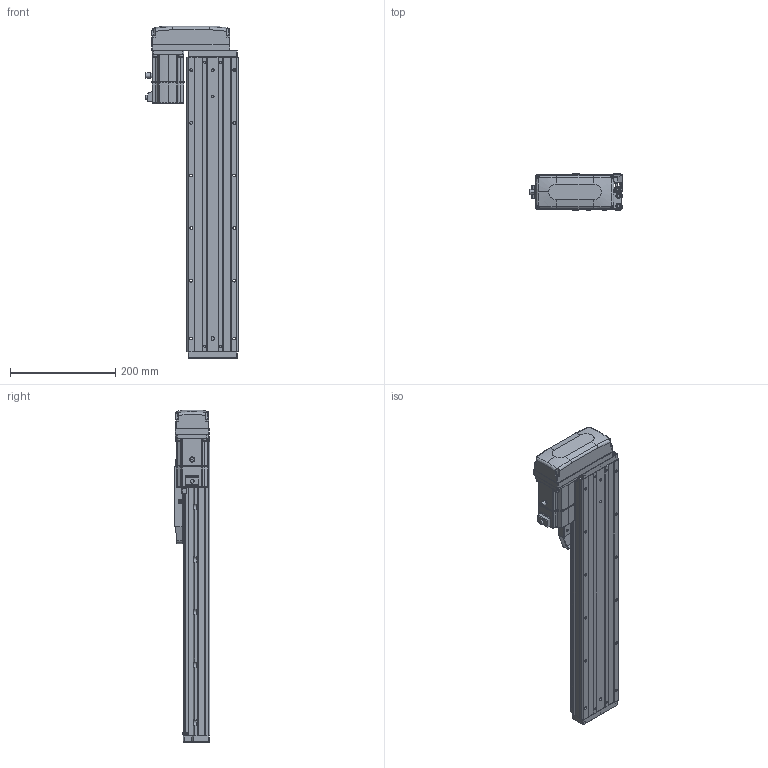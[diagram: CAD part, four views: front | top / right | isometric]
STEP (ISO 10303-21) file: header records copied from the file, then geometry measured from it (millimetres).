
FILE_DESCRIPTION (( 'STEP AP203' ), '1' );
FILE_NAME ('CTHA100-350-BL-M20-C4L.step', '2022-07-06T09:08:24', ( '微软用户' ), ( '微软中国' ), 'SwSTEP 2.0', 'SolidWorks 2020', '' );
FILE_SCHEMA (( 'CONFIG_CONTROL_DESIGN' ));
Length unit declared in the file: millimetre
Products named in the file (19): CTHA60-017; CTHA100-002; CTHA60-021; CTHA100-031; KTHA100-001_560; GBT77-2000 M3×3; CTHA86-030; KTHA100-004; GBT 70.1-M3℅6; GBT 70.3-M3℅6; KTHA100-005; GBT70.1 M5℅16; CTHA86-015-1_CTHA86-015-2; GB¨uT 70.2-M3¡Á5_M3¡Á6; CTHA60-016; CTHA86-033; EE_SX911P_R; _X2_4E0983F1_X0_200W_1; CTHA100-350-BL-M20-C4L
Assembly tree (64 placements, depth 2):
  CTHA100-350-BL-M20-C4L
    KTHA100-001_560
    KTHA100-004
    KTHA100-005
    GB¨uT 70.2-M3¡Á5_M3¡Á6  x10
    EE_SX911P_R  x3
    CTHA60-017  x3
    CTHA60-021  x2
    GBT77-2000 M3×3  x6
    GBT 70.1-M3℅6  x10
    GBT70.1 M5℅16  x14
    CTHA60-016  x2
    _X2_4E0983F1_X0_200W_1
    CTHA100-002
    CTHA100-031
    CTHA86-030  x2
    GBT 70.3-M3℅6  x4
    CTHA86-015-1_CTHA86-015-2
    CTHA86-033
Bounding box: 178.52 x 68 x 631 mm (x, y, z)
Volume: 2915703.5 mm3; surface area: 508535.6 mm2
Topology: 66 solids, 66 shells, 2629 faces, 6303 edges, 3904 vertices
Faces by surface type: plane 1368, cylinder 689, cone 349, torus 124, bspline 75, sphere 24
Entity records: 44700 total; most frequent: CARTESIAN_POINT 8811, DIRECTION 6874, ORIENTED_EDGE 6722, EDGE_CURVE 3361, AXIS2_PLACEMENT_3D 2339, VECTOR 2196, LINE 2196, VERTEX_POINT 2124
